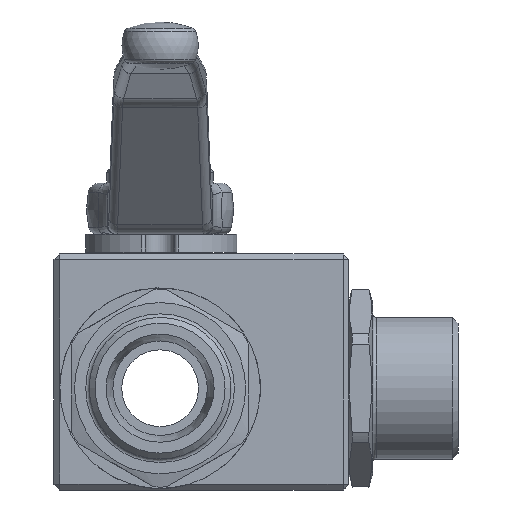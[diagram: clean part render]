
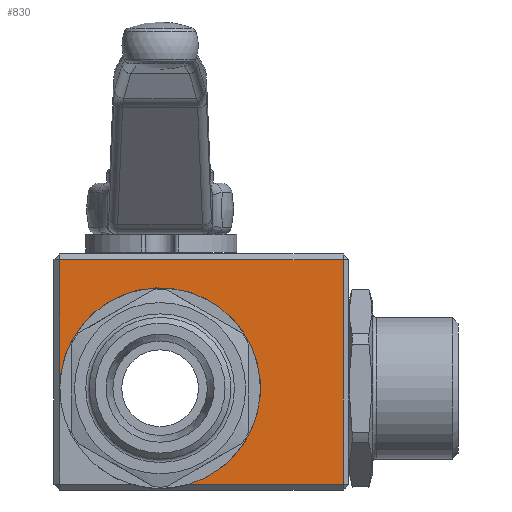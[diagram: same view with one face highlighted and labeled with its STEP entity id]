
A CAD part, front view. The second image highlights one B-rep face of the part: STEP entity #830.
In plain terms, the highlighted planar face has unit normal (0, -1, 0).
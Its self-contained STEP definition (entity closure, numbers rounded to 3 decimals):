
#830 = ADVANCED_FACE( '', ( #1777 ), #1778, .F. );
#1777 = FACE_OUTER_BOUND( '', #3325, .T. );
#1778 = PLANE( '', #3326 );
#3325 = EDGE_LOOP( '', ( #5773, #5774, #5775, #5776, #5777 ) );
#3326 = AXIS2_PLACEMENT_3D( '', #5778, #5779, #5780 );
#5773 = ORIENTED_EDGE( '', *, *, #7627, .T. );
#5774 = ORIENTED_EDGE( '', *, *, #8158, .T. );
#5775 = ORIENTED_EDGE( '', *, *, #8159, .T. );
#5776 = ORIENTED_EDGE( '', *, *, #8160, .T. );
#5777 = ORIENTED_EDGE( '', *, *, #7710, .T. );
#5778 = CARTESIAN_POINT( '', ( -18., -25., 22.75 ) );
#5779 = DIRECTION( '', ( 0., 1., 0. ) );
#5780 = DIRECTION( '', ( 0., 0., 1. ) );
#7627 = EDGE_CURVE( '', #8911, #8913, #8915, .T. );
#7710 = EDGE_CURVE( '', #9052, #8911, #9060, .T. );
#8158 = EDGE_CURVE( '', #8913, #9122, #9768, .T. );
#8159 = EDGE_CURVE( '', #9122, #9769, #9770, .T. );
#8160 = EDGE_CURVE( '', #9769, #9052, #9771, .T. );
#8911 = VERTEX_POINT( '', #10663 );
#8913 = VERTEX_POINT( '', #10665 );
#8915 = CIRCLE( '', #10667, 17. );
#9052 = VERTEX_POINT( '', #10897 );
#9060 = LINE( '', #10909, #10910 );
#9122 = VERTEX_POINT( '', #11021 );
#9768 = LINE( '', #12583, #12584 );
#9769 = VERTEX_POINT( '', #12585 );
#9770 = LINE( '', #12586, #12587 );
#9771 = LINE( '', #12588, #12589 );
#10663 = CARTESIAN_POINT( '', ( -17., -25., 0. ) );
#10665 = CARTESIAN_POINT( '', ( 4.994, -25., -16.25 ) );
#10667 = AXIS2_PLACEMENT_3D( '', #14315, #14316, #14317 );
#10897 = CARTESIAN_POINT( '', ( -17., -25., 21.75 ) );
#10909 = CARTESIAN_POINT( '', ( -17., -25., 22.75 ) );
#10910 = VECTOR( '', #14419, 1000. );
#11021 = CARTESIAN_POINT( '', ( 31., -25., -16.25 ) );
#12583 = CARTESIAN_POINT( '', ( -18., -25., -16.25 ) );
#12584 = VECTOR( '', #15006, 1000. );
#12585 = CARTESIAN_POINT( '', ( 31., -25., 21.75 ) );
#12586 = CARTESIAN_POINT( '', ( 31., -25., 22.75 ) );
#12587 = VECTOR( '', #15007, 1000. );
#12588 = CARTESIAN_POINT( '', ( -18., -25., 21.75 ) );
#12589 = VECTOR( '', #15008, 1000. );
#14315 = CARTESIAN_POINT( '', ( 0., -25., 0. ) );
#14316 = DIRECTION( '', ( 0., 1., 0. ) );
#14317 = DIRECTION( '', ( 1., 0., 0. ) );
#14419 = DIRECTION( '', ( 0., 0., -1. ) );
#15006 = DIRECTION( '', ( 1., 0., 0. ) );
#15007 = DIRECTION( '', ( 0., 0., 1. ) );
#15008 = DIRECTION( '', ( -1., 0., 0. ) );
